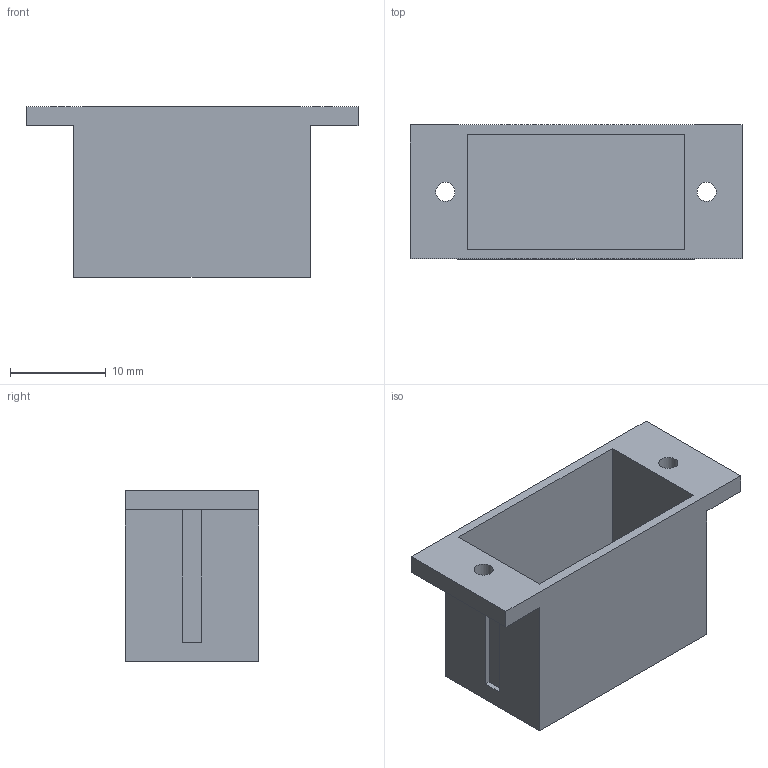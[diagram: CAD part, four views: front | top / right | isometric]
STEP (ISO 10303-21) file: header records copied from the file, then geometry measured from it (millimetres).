
FILE_DESCRIPTION(/* description */ (''),/* implementation_level */ '2;1');
FILE_NAME(/* name */ 'Servo Cage_v2.tmp.step',/* time_stamp */ '2026-11-01T13:10:37+02:00',/* author */ (''),/* organization */ (''),/* preprocessor_version */ 'ST-DEVELOPER v20.2',/* originating_system */ 'Autodesk Translation Framework v15.15.0.0',/* authorisation */ '');
FILE_SCHEMA (('AUTOMOTIVE_DESIGN { 1 0 10303 214 3 1 1 }'));
Length unit declared in the file: millimetre
Products named in the file (1): Servo Cage
Bounding box: 34.7 x 14 x 17.8 mm (x, y, z)
Volume: 2091.2 mm3; surface area: 3530 mm2
Topology: 1 solids, 1 shells, 25 faces, 66 edges, 44 vertices
Faces by surface type: plane 23, cylinder 2
Full cylindrical faces by diameter (mm): 2 x2
Entity records: 805 total; most frequent: CARTESIAN_POINT 136, ORIENTED_EDGE 132, DIRECTION 122, EDGE_CURVE 66, LINE 62, VECTOR 62, VERTEX_POINT 44, EDGE_LOOP 30
